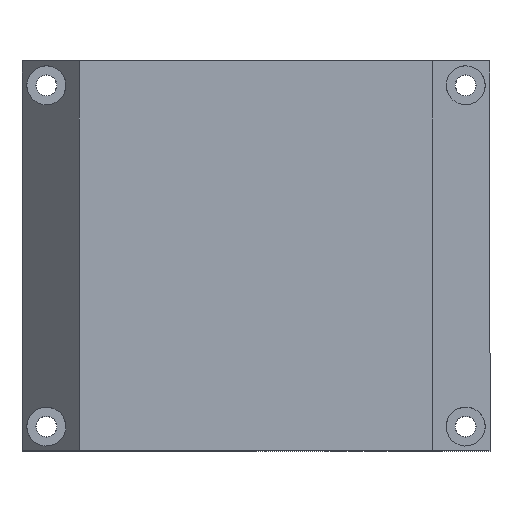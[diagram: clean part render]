
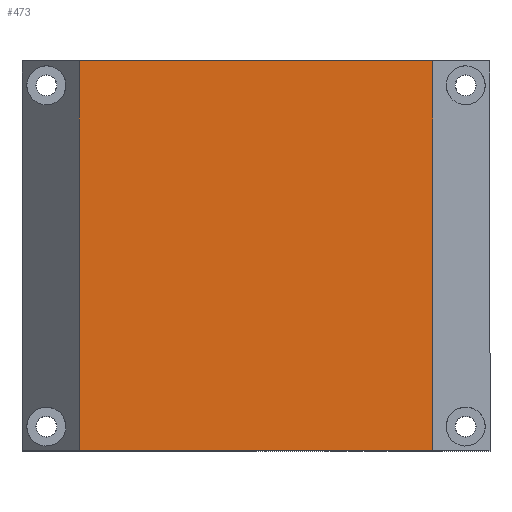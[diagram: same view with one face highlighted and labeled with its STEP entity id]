
A CAD part, top view. The second image highlights one B-rep face of the part: STEP entity #473.
In plain terms, the highlighted planar face has unit normal (0, 0, 1).
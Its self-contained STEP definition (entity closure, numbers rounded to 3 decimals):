
#2 = EDGE_CURVE ( 'NONE', #664, #1273, #739, .T. ) ;
#42 = VECTOR ( 'NONE', #769, 1000. ) ;
#163 = EDGE_CURVE ( 'NONE', #1273, #204, #1046, .T. ) ;
#177 = CARTESIAN_POINT ( 'NONE',  ( -48., -40., 17.5 ) ) ;
#204 = VERTEX_POINT ( 'NONE', #1502 ) ;
#236 = AXIS2_PLACEMENT_3D ( 'NONE', #398, #560, #1386 ) ;
#239 = VECTOR ( 'NONE', #1708, 1000. ) ;
#275 = CARTESIAN_POINT ( 'NONE',  ( -36.253, -40., 17.5 ) ) ;
#284 = VERTEX_POINT ( 'NONE', #1597 ) ;
#299 = ORIENTED_EDGE ( 'NONE', *, *, #525, .T. ) ;
#362 = ORIENTED_EDGE ( 'NONE', *, *, #163, .T. ) ;
#370 = EDGE_LOOP ( 'NONE', ( #1313, #1319, #362, #299 ) ) ;
#398 = CARTESIAN_POINT ( 'NONE',  ( 0., 0., 17.5 ) ) ;
#473 = ADVANCED_FACE ( 'NONE', ( #1085 ), #830, .T. ) ;
#525 = EDGE_CURVE ( 'NONE', #204, #284, #1660, .T. ) ;
#550 = CARTESIAN_POINT ( 'NONE',  ( 36.253, 40., 17.5 ) ) ;
#560 = DIRECTION ( 'NONE',  ( 0., 0., 1. ) ) ;
#664 = VERTEX_POINT ( 'NONE', #1269 ) ;
#729 = DIRECTION ( 'NONE',  ( 1., 0., 0. ) ) ;
#739 = LINE ( 'NONE', #1557, #1563 ) ;
#769 = DIRECTION ( 'NONE',  ( -1., 0., 0. ) ) ;
#830 = PLANE ( 'NONE',  #236 ) ;
#986 = VECTOR ( 'NONE', #729, 1000. ) ;
#987 = DIRECTION ( 'NONE',  ( 0., 1., 0. ) ) ;
#1046 = LINE ( 'NONE', #1611, #42 ) ;
#1085 = FACE_OUTER_BOUND ( 'NONE', #370, .T. ) ;
#1269 = CARTESIAN_POINT ( 'NONE',  ( 36.253, -40., 17.5 ) ) ;
#1273 = VERTEX_POINT ( 'NONE', #550 ) ;
#1313 = ORIENTED_EDGE ( 'NONE', *, *, #1466, .T. ) ;
#1319 = ORIENTED_EDGE ( 'NONE', *, *, #2, .T. ) ;
#1386 = DIRECTION ( 'NONE',  ( 1., 0., 0. ) ) ;
#1426 = LINE ( 'NONE', #177, #986 ) ;
#1466 = EDGE_CURVE ( 'NONE', #284, #664, #1426, .T. ) ;
#1502 = CARTESIAN_POINT ( 'NONE',  ( -36.253, 40., 17.5 ) ) ;
#1557 = CARTESIAN_POINT ( 'NONE',  ( 36.253, 40., 17.5 ) ) ;
#1563 = VECTOR ( 'NONE', #987, 1000. ) ;
#1597 = CARTESIAN_POINT ( 'NONE',  ( -36.253, -40., 17.5 ) ) ;
#1611 = CARTESIAN_POINT ( 'NONE',  ( -48., 40., 17.5 ) ) ;
#1660 = LINE ( 'NONE', #275, #239 ) ;
#1708 = DIRECTION ( 'NONE',  ( 0., -1., 0. ) ) ;
